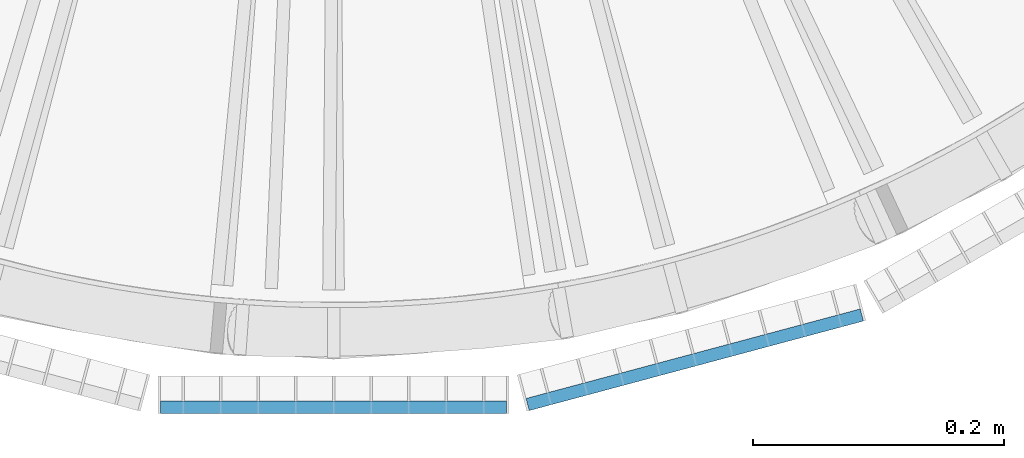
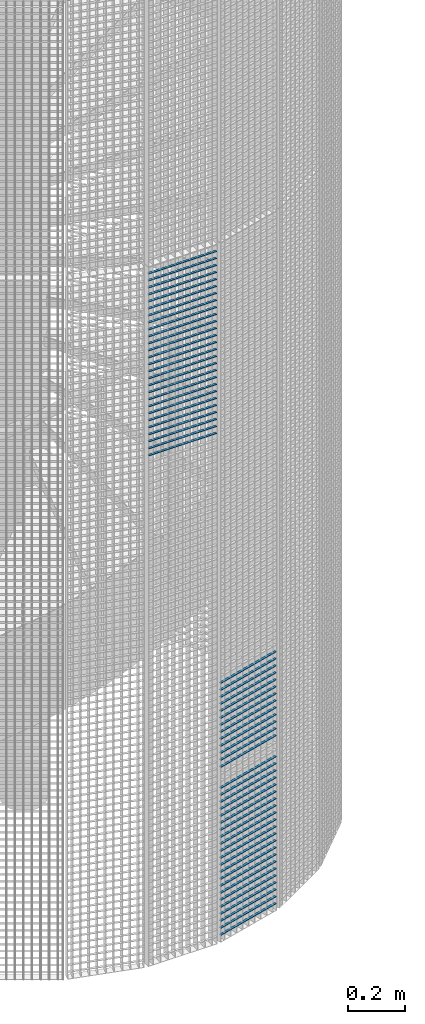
# One storey, part 167 of 1148: 62 beams, 2 elements without a shape of their own.
"""IFC2X3 building model written with IfcOpenShell, lengths in millimetres."""

from ifc_helpers import new_model, si_unit, frame, origin_with_axes, origin_2d_with_axis, place, context, subcontext, project, spatial, rectangle, extrude, material, type_object, element, aggregate, save


model = new_model("IFC2X3")

# Units and contexts
model_context = context("Model", 3, precision=1e-05, world=origin_with_axes())
body_context = subcontext(model_context, "Body", "Model", "MODEL_VIEW")
ifc_project = project(units=[si_unit("LENGTHUNIT", "METRE", prefix="MILLI"), si_unit("AREAUNIT", "SQUARE_METRE"), si_unit("VOLUMEUNIT", "CUBIC_METRE"), si_unit("MASSUNIT", "GRAM", prefix="KILO"), si_unit("TIMEUNIT", "SECOND"), si_unit("PLANEANGLEUNIT", "RADIAN"), si_unit("SOLIDANGLEUNIT", "STERADIAN"), si_unit("THERMODYNAMICTEMPERATUREUNIT", "DEGREE_CELSIUS"), si_unit("LUMINOUSINTENSITYUNIT", "LUMEN")], contexts=[model_context])

# Site, building, storey
site_placement = place(None, origin_with_axes())
site = spatial("IfcSite", under=ifc_project, at=site_placement, Name="Undefined", CompositionType="ELEMENT")
building_placement = place(site_placement, origin_with_axes())
building = spatial("IfcBuilding", under=site, at=building_placement, Name="Undefined", CompositionType="ELEMENT")
storey_placement = place(building_placement, origin_with_axes())
storey = spatial("IfcBuildingStorey", under=building, at=storey_placement, Name="Undefined", CompositionType="ELEMENT", Elevation=0.0)

# Assembly, beams
assembly_1_placement = place(storey_placement, origin_with_axes())
assembly_1 = element("IfcElementAssembly", 1, at=assembly_1_placement, inside=storey, Name="BORDURE", AssemblyPlace="NOTDEFINED", PredefinedType="NOTDEFINED")
ifc_material = material(Name="STEEL/S235JR")
beam_type = type_object("IfcBeamType", Name="PL2*10", PredefinedType="NOTDEFINED")
beam_1_placement = place(assembly_1_placement, frame((154.895926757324, -1111.25508286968, 749.999999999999), z_axis=(0.258819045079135, -0.965925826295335, 0.0), x_axis=(0.965925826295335, 0.258819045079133, 0.0)))
beam_1 = element("IfcBeam", 2, at=beam_1_placement, type_object=beam_type, material=ifc_material, Name="ENTRETOISE", context=body_context, shape_type="SweptSolid", body=[
    extrude(rectangle(XDim=2.0, YDim=10.0, at=origin_2d_with_axis()), frame((275.999999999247, 9.09494701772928e-13, 1.53210777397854e-14), z_axis=(-1.0, 0.0, 0.0), x_axis=(0.0, -1.0, 0.0)), (0.0, 0.0, 1.0), 276.0),
])
beam_2_placement = place(assembly_1_placement, frame((154.895926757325, -1111.25508286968, 659.999999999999), z_axis=(0.258819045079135, -0.965925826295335, 0.0), x_axis=(0.965925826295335, 0.258819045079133, 0.0)))
beam_2 = element("IfcBeam", 3, at=beam_2_placement, type_object=beam_type, material=ifc_material, Name="ENTRETOISE", context=body_context, shape_type="SweptSolid", body=[
    extrude(rectangle(XDim=2.0, YDim=10.0, at=origin_2d_with_axis()), frame((275.999999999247, 9.09494701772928e-13, 1.53210777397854e-14), z_axis=(-1.0, 0.0, 0.0), x_axis=(0.0, -1.0, 0.0)), (0.0, 0.0, 1.0), 276.0),
])
beam_3_placement = place(assembly_1_placement, frame((154.895926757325, -1111.25508286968, 629.999999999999), z_axis=(0.258819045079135, -0.965925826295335, 0.0), x_axis=(0.965925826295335, 0.258819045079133, 0.0)))
beam_3 = element("IfcBeam", 4, at=beam_3_placement, type_object=beam_type, material=ifc_material, Name="ENTRETOISE", context=body_context, shape_type="SweptSolid", body=[
    extrude(rectangle(XDim=2.0, YDim=10.0, at=origin_2d_with_axis()), frame((275.999999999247, 9.09494701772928e-13, 1.53210777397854e-14), z_axis=(-1.0, 0.0, 0.0), x_axis=(0.0, -1.0, 0.0)), (0.0, 0.0, 1.0), 276.0),
])
beam_4_placement = place(assembly_1_placement, frame((154.895926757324, -1111.25508286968, 779.999999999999), z_axis=(0.258819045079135, -0.965925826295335, 0.0), x_axis=(0.965925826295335, 0.258819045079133, 0.0)))
beam_4 = element("IfcBeam", 5, at=beam_4_placement, type_object=beam_type, material=ifc_material, Name="ENTRETOISE", context=body_context, shape_type="SweptSolid", body=[
    extrude(rectangle(XDim=2.0, YDim=10.0, at=origin_2d_with_axis()), frame((275.999999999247, 9.09494701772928e-13, 1.53210777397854e-14), z_axis=(-1.0, 0.0, 0.0), x_axis=(0.0, -1.0, 0.0)), (0.0, 0.0, 1.0), 276.0),
])
beam_5_placement = place(assembly_1_placement, frame((154.895926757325, -1111.25508286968, 599.999999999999), z_axis=(0.258819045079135, -0.965925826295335, 0.0), x_axis=(0.965925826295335, 0.258819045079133, 0.0)))
beam_5 = element("IfcBeam", 6, at=beam_5_placement, type_object=beam_type, material=ifc_material, Name="ENTRETOISE", context=body_context, shape_type="SweptSolid", body=[
    extrude(rectangle(XDim=2.0, YDim=10.0, at=origin_2d_with_axis()), frame((275.999999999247, 9.09494701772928e-13, 1.53210777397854e-14), z_axis=(-1.0, 0.0, 0.0), x_axis=(0.0, -1.0, 0.0)), (0.0, 0.0, 1.0), 276.0),
])
beam_6_placement = place(assembly_1_placement, frame((154.895926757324, -1111.25508286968, 809.999999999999), z_axis=(0.258819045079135, -0.965925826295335, 0.0), x_axis=(0.965925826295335, 0.258819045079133, 0.0)))
beam_6 = element("IfcBeam", 7, at=beam_6_placement, type_object=beam_type, material=ifc_material, Name="ENTRETOISE", context=body_context, shape_type="SweptSolid", body=[
    extrude(rectangle(XDim=2.0, YDim=10.0, at=origin_2d_with_axis()), frame((275.999999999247, 9.09494701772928e-13, 1.53210777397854e-14), z_axis=(-1.0, 0.0, 0.0), x_axis=(0.0, -1.0, 0.0)), (0.0, 0.0, 1.0), 276.0),
])
beam_7_placement = place(assembly_1_placement, frame((154.895926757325, -1111.25508286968, 569.999999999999), z_axis=(0.258819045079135, -0.965925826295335, 0.0), x_axis=(0.965925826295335, 0.258819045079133, 0.0)))
beam_7 = element("IfcBeam", 8, at=beam_7_placement, type_object=beam_type, material=ifc_material, Name="ENTRETOISE", context=body_context, shape_type="SweptSolid", body=[
    extrude(rectangle(XDim=2.0, YDim=10.0, at=origin_2d_with_axis()), frame((275.999999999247, 9.09494701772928e-13, 1.53210777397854e-14), z_axis=(-1.0, 0.0, 0.0), x_axis=(0.0, -1.0, 0.0)), (0.0, 0.0, 1.0), 276.0),
])
beam_8_placement = place(assembly_1_placement, frame((154.895926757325, -1111.25508286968, 539.999999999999), z_axis=(0.258819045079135, -0.965925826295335, 0.0), x_axis=(0.965925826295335, 0.258819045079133, 0.0)))
beam_8 = element("IfcBeam", 9, at=beam_8_placement, type_object=beam_type, material=ifc_material, Name="ENTRETOISE", context=body_context, shape_type="SweptSolid", body=[
    extrude(rectangle(XDim=2.0, YDim=10.0, at=origin_2d_with_axis()), frame((275.999999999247, 9.09494701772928e-13, 1.53210777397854e-14), z_axis=(-1.0, 0.0, 0.0), x_axis=(0.0, -1.0, 0.0)), (0.0, 0.0, 1.0), 276.0),
])
beam_9_placement = place(assembly_1_placement, frame((154.895926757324, -1111.25508286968, 839.999999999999), z_axis=(0.258819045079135, -0.965925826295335, 0.0), x_axis=(0.965925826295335, 0.258819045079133, 0.0)))
beam_9 = element("IfcBeam", 10, at=beam_9_placement, type_object=beam_type, material=ifc_material, Name="ENTRETOISE", context=body_context, shape_type="SweptSolid", body=[
    extrude(rectangle(XDim=2.0, YDim=10.0, at=origin_2d_with_axis()), frame((275.999999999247, 9.09494701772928e-13, 1.53210777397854e-14), z_axis=(-1.0, 0.0, 0.0), x_axis=(0.0, -1.0, 0.0)), (0.0, 0.0, 1.0), 276.0),
])
beam_10_placement = place(assembly_1_placement, frame((154.895926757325, -1111.25508286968, 509.999999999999), z_axis=(0.258819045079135, -0.965925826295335, 0.0), x_axis=(0.965925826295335, 0.258819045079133, 0.0)))
beam_10 = element("IfcBeam", 11, at=beam_10_placement, type_object=beam_type, material=ifc_material, Name="ENTRETOISE", context=body_context, shape_type="SweptSolid", body=[
    extrude(rectangle(XDim=2.0, YDim=10.0, at=origin_2d_with_axis()), frame((275.999999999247, 9.09494701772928e-13, 1.53210777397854e-14), z_axis=(-1.0, 0.0, 0.0), x_axis=(0.0, -1.0, 0.0)), (0.0, 0.0, 1.0), 276.0),
])
beam_11_placement = place(assembly_1_placement, frame((154.895926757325, -1111.25508286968, 479.999999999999), z_axis=(0.258819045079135, -0.965925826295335, 0.0), x_axis=(0.965925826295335, 0.258819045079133, 0.0)))
beam_11 = element("IfcBeam", 12, at=beam_11_placement, type_object=beam_type, material=ifc_material, Name="ENTRETOISE", context=body_context, shape_type="SweptSolid", body=[
    extrude(rectangle(XDim=2.0, YDim=10.0, at=origin_2d_with_axis()), frame((275.999999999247, 9.09494701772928e-13, 1.53210777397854e-14), z_axis=(-1.0, 0.0, 0.0), x_axis=(0.0, -1.0, 0.0)), (0.0, 0.0, 1.0), 276.0),
])
beam_12_placement = place(assembly_1_placement, frame((154.895926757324, -1111.25508286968, 869.999999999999), z_axis=(0.258819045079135, -0.965925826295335, 0.0), x_axis=(0.965925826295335, 0.258819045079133, 0.0)))
beam_12 = element("IfcBeam", 13, at=beam_12_placement, type_object=beam_type, material=ifc_material, Name="ENTRETOISE", context=body_context, shape_type="SweptSolid", body=[
    extrude(rectangle(XDim=2.0, YDim=10.0, at=origin_2d_with_axis()), frame((275.999999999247, 9.09494701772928e-13, 1.53210777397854e-14), z_axis=(-1.0, 0.0, 0.0), x_axis=(0.0, -1.0, 0.0)), (0.0, 0.0, 1.0), 276.0),
])
beam_13_placement = place(assembly_1_placement, frame((154.895926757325, -1111.25508286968, 449.999999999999), z_axis=(0.258819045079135, -0.965925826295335, 0.0), x_axis=(0.965925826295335, 0.258819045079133, 0.0)))
beam_13 = element("IfcBeam", 14, at=beam_13_placement, type_object=beam_type, material=ifc_material, Name="ENTRETOISE", context=body_context, shape_type="SweptSolid", body=[
    extrude(rectangle(XDim=2.0, YDim=10.0, at=origin_2d_with_axis()), frame((275.999999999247, 9.09494701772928e-13, 1.53210777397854e-14), z_axis=(-1.0, 0.0, 0.0), x_axis=(0.0, -1.0, 0.0)), (0.0, 0.0, 1.0), 276.0),
])
beam_14_placement = place(assembly_1_placement, frame((154.895926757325, -1111.25508286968, 419.999999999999), z_axis=(0.258819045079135, -0.965925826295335, 0.0), x_axis=(0.965925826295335, 0.258819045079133, 0.0)))
beam_14 = element("IfcBeam", 15, at=beam_14_placement, type_object=beam_type, material=ifc_material, Name="ENTRETOISE", context=body_context, shape_type="SweptSolid", body=[
    extrude(rectangle(XDim=2.0, YDim=10.0, at=origin_2d_with_axis()), frame((275.999999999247, 9.09494701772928e-13, 1.53210777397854e-14), z_axis=(-1.0, 0.0, 0.0), x_axis=(0.0, -1.0, 0.0)), (0.0, 0.0, 1.0), 276.0),
])
beam_15_placement = place(assembly_1_placement, frame((154.895926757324, -1111.25508286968, 899.999999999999), z_axis=(0.258819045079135, -0.965925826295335, 0.0), x_axis=(0.965925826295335, 0.258819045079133, 0.0)))
beam_15 = element("IfcBeam", 16, at=beam_15_placement, type_object=beam_type, material=ifc_material, Name="ENTRETOISE", context=body_context, shape_type="SweptSolid", body=[
    extrude(rectangle(XDim=2.0, YDim=10.0, at=origin_2d_with_axis()), frame((275.999999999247, 9.09494701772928e-13, 1.53210777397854e-14), z_axis=(-1.0, 0.0, 0.0), x_axis=(0.0, -1.0, 0.0)), (0.0, 0.0, 1.0), 276.0),
])
beam_16_placement = place(assembly_1_placement, frame((154.895926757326, -1111.25508286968, 389.999999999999), z_axis=(0.258819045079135, -0.965925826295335, 0.0), x_axis=(0.965925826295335, 0.258819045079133, 0.0)))
beam_16 = element("IfcBeam", 17, at=beam_16_placement, type_object=beam_type, material=ifc_material, Name="ENTRETOISE", context=body_context, shape_type="SweptSolid", body=[
    extrude(rectangle(XDim=2.0, YDim=10.0, at=origin_2d_with_axis()), frame((275.999999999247, 9.09494701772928e-13, 1.53210777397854e-14), z_axis=(-1.0, 0.0, 0.0), x_axis=(0.0, -1.0, 0.0)), (0.0, 0.0, 1.0), 276.0),
])
beam_17_placement = place(assembly_1_placement, frame((154.895926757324, -1111.25508286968, 929.999999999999), z_axis=(0.258819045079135, -0.965925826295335, 0.0), x_axis=(0.965925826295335, 0.258819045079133, 0.0)))
beam_17 = element("IfcBeam", 18, at=beam_17_placement, type_object=beam_type, material=ifc_material, Name="ENTRETOISE", context=body_context, shape_type="SweptSolid", body=[
    extrude(rectangle(XDim=2.0, YDim=10.0, at=origin_2d_with_axis()), frame((275.999999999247, 9.09494701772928e-13, 1.53210777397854e-14), z_axis=(-1.0, 0.0, 0.0), x_axis=(0.0, -1.0, 0.0)), (0.0, 0.0, 1.0), 276.0),
])
beam_18_placement = place(assembly_1_placement, frame((154.895926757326, -1111.25508286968, 359.999999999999), z_axis=(0.258819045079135, -0.965925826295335, 0.0), x_axis=(0.965925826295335, 0.258819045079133, 0.0)))
beam_18 = element("IfcBeam", 19, at=beam_18_placement, type_object=beam_type, material=ifc_material, Name="ENTRETOISE", context=body_context, shape_type="SweptSolid", body=[
    extrude(rectangle(XDim=2.0, YDim=10.0, at=origin_2d_with_axis()), frame((275.999999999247, 9.09494701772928e-13, 1.53210777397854e-14), z_axis=(-1.0, 0.0, 0.0), x_axis=(0.0, -1.0, 0.0)), (0.0, 0.0, 1.0), 276.0),
])
beam_19_placement = place(assembly_1_placement, frame((154.895926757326, -1111.25508286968, 329.999999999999), z_axis=(0.258819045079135, -0.965925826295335, 0.0), x_axis=(0.965925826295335, 0.258819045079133, 0.0)))
beam_19 = element("IfcBeam", 20, at=beam_19_placement, type_object=beam_type, material=ifc_material, Name="ENTRETOISE", context=body_context, shape_type="SweptSolid", body=[
    extrude(rectangle(XDim=2.0, YDim=10.0, at=origin_2d_with_axis()), frame((275.999999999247, 9.09494701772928e-13, 1.53210777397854e-14), z_axis=(-1.0, 0.0, 0.0), x_axis=(0.0, -1.0, 0.0)), (0.0, 0.0, 1.0), 276.0),
])
beam_20_placement = place(assembly_1_placement, frame((154.895926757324, -1111.25508286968, 959.999999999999), z_axis=(0.258819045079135, -0.965925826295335, 0.0), x_axis=(0.965925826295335, 0.258819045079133, 0.0)))
beam_20 = element("IfcBeam", 21, at=beam_20_placement, type_object=beam_type, material=ifc_material, Name="ENTRETOISE", context=body_context, shape_type="SweptSolid", body=[
    extrude(rectangle(XDim=2.0, YDim=10.0, at=origin_2d_with_axis()), frame((275.999999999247, 9.09494701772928e-13, 1.53210777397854e-14), z_axis=(-1.0, 0.0, 0.0), x_axis=(0.0, -1.0, 0.0)), (0.0, 0.0, 1.0), 276.0),
])
beam_21_placement = place(assembly_1_placement, frame((154.895926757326, -1111.25508286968, 299.999999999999), z_axis=(0.258819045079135, -0.965925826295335, 0.0), x_axis=(0.965925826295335, 0.258819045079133, 0.0)))
beam_21 = element("IfcBeam", 22, at=beam_21_placement, type_object=beam_type, material=ifc_material, Name="ENTRETOISE", context=body_context, shape_type="SweptSolid", body=[
    extrude(rectangle(XDim=2.0, YDim=10.0, at=origin_2d_with_axis()), frame((275.999999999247, 9.09494701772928e-13, 1.53210777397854e-14), z_axis=(-1.0, 0.0, 0.0), x_axis=(0.0, -1.0, 0.0)), (0.0, 0.0, 1.0), 276.0),
])
beam_22_placement = place(assembly_1_placement, frame((154.895926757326, -1111.25508286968, 269.999999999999), z_axis=(0.258819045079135, -0.965925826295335, 0.0), x_axis=(0.965925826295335, 0.258819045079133, 0.0)))
beam_22 = element("IfcBeam", 23, at=beam_22_placement, type_object=beam_type, material=ifc_material, Name="ENTRETOISE", context=body_context, shape_type="SweptSolid", body=[
    extrude(rectangle(XDim=2.0, YDim=10.0, at=origin_2d_with_axis()), frame((275.999999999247, 9.09494701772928e-13, 1.53210777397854e-14), z_axis=(-1.0, 0.0, 0.0), x_axis=(0.0, -1.0, 0.0)), (0.0, 0.0, 1.0), 276.0),
])
beam_23_placement = place(assembly_1_placement, frame((154.895926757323, -1111.25508286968, 989.999999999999), z_axis=(0.258819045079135, -0.965925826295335, 0.0), x_axis=(0.965925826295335, 0.258819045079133, 0.0)))
beam_23 = element("IfcBeam", 24, at=beam_23_placement, type_object=beam_type, material=ifc_material, Name="ENTRETOISE", context=body_context, shape_type="SweptSolid", body=[
    extrude(rectangle(XDim=2.0, YDim=10.0, at=origin_2d_with_axis()), frame((275.999999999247, 9.09494701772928e-13, 1.53210777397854e-14), z_axis=(-1.0, 0.0, 0.0), x_axis=(0.0, -1.0, 0.0)), (0.0, 0.0, 1.0), 276.0),
])
beam_24_placement = place(assembly_1_placement, frame((154.895926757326, -1111.25508286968, 239.999999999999), z_axis=(0.258819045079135, -0.965925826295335, 0.0), x_axis=(0.965925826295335, 0.258819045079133, 0.0)))
beam_24 = element("IfcBeam", 25, at=beam_24_placement, type_object=beam_type, material=ifc_material, Name="ENTRETOISE", context=body_context, shape_type="SweptSolid", body=[
    extrude(rectangle(XDim=2.0, YDim=10.0, at=origin_2d_with_axis()), frame((275.999999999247, 9.09494701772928e-13, 1.53210777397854e-14), z_axis=(-1.0, 0.0, 0.0), x_axis=(0.0, -1.0, 0.0)), (0.0, 0.0, 1.0), 276.0),
])
beam_25_placement = place(assembly_1_placement, frame((154.895926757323, -1111.25508286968, 1020.0), z_axis=(0.258819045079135, -0.965925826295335, 0.0), x_axis=(0.965925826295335, 0.258819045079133, 0.0)))
beam_25 = element("IfcBeam", 26, at=beam_25_placement, type_object=beam_type, material=ifc_material, Name="ENTRETOISE", context=body_context, shape_type="SweptSolid", body=[
    extrude(rectangle(XDim=2.0, YDim=10.0, at=origin_2d_with_axis()), frame((275.999999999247, 9.09494701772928e-13, 1.53210777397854e-14), z_axis=(-1.0, 0.0, 0.0), x_axis=(0.0, -1.0, 0.0)), (0.0, 0.0, 1.0), 276.0),
])
beam_26_placement = place(assembly_1_placement, frame((154.895926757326, -1111.25508286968, 209.999999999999), z_axis=(0.258819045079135, -0.965925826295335, 0.0), x_axis=(0.965925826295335, 0.258819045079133, 0.0)))
beam_26 = element("IfcBeam", 27, at=beam_26_placement, type_object=beam_type, material=ifc_material, Name="ENTRETOISE", context=body_context, shape_type="SweptSolid", body=[
    extrude(rectangle(XDim=2.0, YDim=10.0, at=origin_2d_with_axis()), frame((275.999999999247, 9.09494701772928e-13, 1.53210777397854e-14), z_axis=(-1.0, 0.0, 0.0), x_axis=(0.0, -1.0, 0.0)), (0.0, 0.0, 1.0), 276.0),
])
beam_27_placement = place(assembly_1_placement, frame((154.895926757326, -1111.25508286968, 179.999999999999), z_axis=(0.258819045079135, -0.965925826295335, 0.0), x_axis=(0.965925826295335, 0.258819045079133, 0.0)))
beam_27 = element("IfcBeam", 28, at=beam_27_placement, type_object=beam_type, material=ifc_material, Name="ENTRETOISE", context=body_context, shape_type="SweptSolid", body=[
    extrude(rectangle(XDim=2.0, YDim=10.0, at=origin_2d_with_axis()), frame((275.999999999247, 9.09494701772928e-13, 1.53210777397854e-14), z_axis=(-1.0, 0.0, 0.0), x_axis=(0.0, -1.0, 0.0)), (0.0, 0.0, 1.0), 276.0),
])
beam_28_placement = place(assembly_1_placement, frame((154.895926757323, -1111.25508286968, 1050.0), z_axis=(0.258819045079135, -0.965925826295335, 0.0), x_axis=(0.965925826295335, 0.258819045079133, 0.0)))
beam_28 = element("IfcBeam", 29, at=beam_28_placement, type_object=beam_type, material=ifc_material, Name="ENTRETOISE", context=body_context, shape_type="SweptSolid", body=[
    extrude(rectangle(XDim=2.0, YDim=10.0, at=origin_2d_with_axis()), frame((275.999999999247, 9.09494701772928e-13, 1.53210777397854e-14), z_axis=(-1.0, 0.0, 0.0), x_axis=(0.0, -1.0, 0.0)), (0.0, 0.0, 1.0), 276.0),
])
beam_29_placement = place(assembly_1_placement, frame((154.895926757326, -1111.25508286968, 149.999999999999), z_axis=(0.258819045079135, -0.965925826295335, 0.0), x_axis=(0.965925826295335, 0.258819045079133, 0.0)))
beam_29 = element("IfcBeam", 30, at=beam_29_placement, type_object=beam_type, material=ifc_material, Name="ENTRETOISE", context=body_context, shape_type="SweptSolid", body=[
    extrude(rectangle(XDim=2.0, YDim=10.0, at=origin_2d_with_axis()), frame((275.999999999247, 9.09494701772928e-13, 1.53210777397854e-14), z_axis=(-1.0, 0.0, 0.0), x_axis=(0.0, -1.0, 0.0)), (0.0, 0.0, 1.0), 276.0),
])
beam_30_placement = place(assembly_1_placement, frame((154.895926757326, -1111.25508286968, 119.999999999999), z_axis=(0.258819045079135, -0.965925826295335, 0.0), x_axis=(0.965925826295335, 0.258819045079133, 0.0)))
beam_30 = element("IfcBeam", 31, at=beam_30_placement, type_object=beam_type, material=ifc_material, Name="ENTRETOISE", context=body_context, shape_type="SweptSolid", body=[
    extrude(rectangle(XDim=2.0, YDim=10.0, at=origin_2d_with_axis()), frame((275.999999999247, 9.09494701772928e-13, 1.53210777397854e-14), z_axis=(-1.0, 0.0, 0.0), x_axis=(0.0, -1.0, 0.0)), (0.0, 0.0, 1.0), 276.0),
])
beam_31_placement = place(assembly_1_placement, frame((154.895926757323, -1111.25508286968, 1080.0), z_axis=(0.258819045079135, -0.965925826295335, 0.0), x_axis=(0.965925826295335, 0.258819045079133, 0.0)))
beam_31 = element("IfcBeam", 32, at=beam_31_placement, type_object=beam_type, material=ifc_material, Name="ENTRETOISE", context=body_context, shape_type="SweptSolid", body=[
    extrude(rectangle(XDim=2.0, YDim=10.0, at=origin_2d_with_axis()), frame((275.999999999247, 9.09494701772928e-13, 1.53210777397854e-14), z_axis=(-1.0, 0.0, 0.0), x_axis=(0.0, -1.0, 0.0)), (0.0, 0.0, 1.0), 276.0),
])
beam_32_placement = place(assembly_1_placement, frame((154.895926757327, -1111.25508286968, 89.9999999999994), z_axis=(0.258819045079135, -0.965925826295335, 0.0), x_axis=(0.965925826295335, 0.258819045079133, 0.0)))
beam_32 = element("IfcBeam", 33, at=beam_32_placement, type_object=beam_type, material=ifc_material, Name="ENTRETOISE", context=body_context, shape_type="SweptSolid", body=[
    extrude(rectangle(XDim=2.0, YDim=10.0, at=origin_2d_with_axis()), frame((275.999999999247, 9.09494701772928e-13, 1.53210777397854e-14), z_axis=(-1.0, 0.0, 0.0), x_axis=(0.0, -1.0, 0.0)), (0.0, 0.0, 1.0), 276.0),
])
beam_33_placement = place(assembly_1_placement, frame((154.895926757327, -1111.25508286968, 59.9999999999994), z_axis=(0.258819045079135, -0.965925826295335, 0.0), x_axis=(0.965925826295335, 0.258819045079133, 0.0)))
beam_33 = element("IfcBeam", 34, at=beam_33_placement, type_object=beam_type, material=ifc_material, Name="ENTRETOISE", context=body_context, shape_type="SweptSolid", body=[
    extrude(rectangle(XDim=2.0, YDim=10.0, at=origin_2d_with_axis()), frame((275.999999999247, 9.09494701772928e-13, 1.53210777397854e-14), z_axis=(-1.0, 0.0, 0.0), x_axis=(0.0, -1.0, 0.0)), (0.0, 0.0, 1.0), 276.0),
])
beam_34_placement = place(assembly_1_placement, frame((154.895926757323, -1111.25508286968, 1110.0), z_axis=(0.258819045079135, -0.965925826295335, 0.0), x_axis=(0.965925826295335, 0.258819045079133, 0.0)))
beam_34 = element("IfcBeam", 35, at=beam_34_placement, type_object=beam_type, material=ifc_material, Name="ENTRETOISE", context=body_context, shape_type="SweptSolid", body=[
    extrude(rectangle(XDim=2.0, YDim=10.0, at=origin_2d_with_axis()), frame((275.999999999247, 9.09494701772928e-13, 1.53210777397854e-14), z_axis=(-1.0, 0.0, 0.0), x_axis=(0.0, -1.0, 0.0)), (0.0, 0.0, 1.0), 276.0),
])
beam_35_placement = place(assembly_1_placement, frame((154.895926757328, -1111.25508286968, 29.9999999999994), z_axis=(0.258819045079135, -0.965925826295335, 0.0), x_axis=(0.965925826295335, 0.258819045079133, 0.0)))
beam_35 = element("IfcBeam", 36, at=beam_35_placement, type_object=beam_type, material=ifc_material, Name="ENTRETOISE", context=body_context, shape_type="SweptSolid", body=[
    extrude(rectangle(XDim=2.0, YDim=10.0, at=origin_2d_with_axis()), frame((275.999999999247, 9.09494701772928e-13, 1.53210777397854e-14), z_axis=(-1.0, 0.0, 0.0), x_axis=(0.0, -1.0, 0.0)), (0.0, 0.0, 1.0), 276.0),
])
aggregate(assembly_1, [beam_1, beam_2, beam_3, beam_4, beam_5, beam_6, beam_7, beam_8, beam_9, beam_10, beam_11, beam_12, beam_13, beam_14, beam_15, beam_16, beam_17, beam_18, beam_19, beam_20, beam_21, beam_22, beam_23, beam_24, beam_25, beam_26, beam_27, beam_28, beam_29, beam_30, beam_31, beam_32, beam_33, beam_34, beam_35])

assembly_2_placement = place(storey_placement, origin_with_axes())
assembly_2 = element("IfcElementAssembly", 37, at=assembly_2_placement, inside=storey, Name="BORDURE", AssemblyPlace="NOTDEFINED", PredefinedType="NOTDEFINED")
beam_36_placement = place(assembly_2_placement, frame((-137.996003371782, -1113.47999999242, 2970.0), z_axis=(0.0, -1.0, 0.0), x_axis=(1.0, 0.0, 0.0)))
beam_36 = element("IfcBeam", 38, at=beam_36_placement, type_object=beam_type, material=ifc_material, Name="ENTRETOISE", context=body_context, shape_type="SweptSolid", body=[
    extrude(rectangle(XDim=2.0, YDim=10.0, at=origin_2d_with_axis()), frame((275.999999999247, 9.09494701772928e-13, 1.53210777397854e-14), z_axis=(-1.0, 0.0, 0.0), x_axis=(0.0, -1.0, 0.0)), (0.0, 0.0, 1.0), 276.0),
])
beam_37_placement = place(assembly_2_placement, frame((-137.996003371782, -1113.47999999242, 2940.0), z_axis=(0.0, -1.0, 0.0), x_axis=(1.0, 0.0, 0.0)))
beam_37 = element("IfcBeam", 39, at=beam_37_placement, type_object=beam_type, material=ifc_material, Name="ENTRETOISE", context=body_context, shape_type="SweptSolid", body=[
    extrude(rectangle(XDim=2.0, YDim=10.0, at=origin_2d_with_axis()), frame((275.999999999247, 9.09494701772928e-13, 1.53210777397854e-14), z_axis=(-1.0, 0.0, 0.0), x_axis=(0.0, -1.0, 0.0)), (0.0, 0.0, 1.0), 276.0),
])
beam_38_placement = place(assembly_2_placement, frame((-137.996003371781, -1113.47999999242, 2910.0), z_axis=(0.0, -1.0, 0.0), x_axis=(1.0, 0.0, 0.0)))
beam_38 = element("IfcBeam", 40, at=beam_38_placement, type_object=beam_type, material=ifc_material, Name="ENTRETOISE", context=body_context, shape_type="SweptSolid", body=[
    extrude(rectangle(XDim=2.0, YDim=10.0, at=origin_2d_with_axis()), frame((275.999999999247, 9.09494701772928e-13, 1.53210777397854e-14), z_axis=(-1.0, 0.0, 0.0), x_axis=(0.0, -1.0, 0.0)), (0.0, 0.0, 1.0), 276.0),
])
beam_39_placement = place(assembly_2_placement, frame((-137.996003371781, -1113.47999999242, 2880.0), z_axis=(0.0, -1.0, 0.0), x_axis=(1.0, 0.0, 0.0)))
beam_39 = element("IfcBeam", 41, at=beam_39_placement, type_object=beam_type, material=ifc_material, Name="ENTRETOISE", context=body_context, shape_type="SweptSolid", body=[
    extrude(rectangle(XDim=2.0, YDim=10.0, at=origin_2d_with_axis()), frame((275.999999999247, 9.09494701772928e-13, 1.53210777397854e-14), z_axis=(-1.0, 0.0, 0.0), x_axis=(0.0, -1.0, 0.0)), (0.0, 0.0, 1.0), 276.0),
])
beam_40_placement = place(assembly_2_placement, frame((-137.996003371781, -1113.47999999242, 2850.0), z_axis=(0.0, -1.0, 0.0), x_axis=(1.0, 0.0, 0.0)))
beam_40 = element("IfcBeam", 42, at=beam_40_placement, type_object=beam_type, material=ifc_material, Name="ENTRETOISE", context=body_context, shape_type="SweptSolid", body=[
    extrude(rectangle(XDim=2.0, YDim=10.0, at=origin_2d_with_axis()), frame((275.999999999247, 9.09494701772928e-13, 1.53210777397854e-14), z_axis=(-1.0, 0.0, 0.0), x_axis=(0.0, -1.0, 0.0)), (0.0, 0.0, 1.0), 276.0),
])
beam_41_placement = place(assembly_2_placement, frame((-137.996003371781, -1113.47999999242, 2820.0), z_axis=(0.0, -1.0, 0.0), x_axis=(1.0, 0.0, 0.0)))
beam_41 = element("IfcBeam", 43, at=beam_41_placement, type_object=beam_type, material=ifc_material, Name="ENTRETOISE", context=body_context, shape_type="SweptSolid", body=[
    extrude(rectangle(XDim=2.0, YDim=10.0, at=origin_2d_with_axis()), frame((275.999999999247, 9.09494701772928e-13, 1.53210777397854e-14), z_axis=(-1.0, 0.0, 0.0), x_axis=(0.0, -1.0, 0.0)), (0.0, 0.0, 1.0), 276.0),
])
beam_42_placement = place(assembly_2_placement, frame((-137.996003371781, -1113.47999999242, 2790.0), z_axis=(0.0, -1.0, 0.0), x_axis=(1.0, 0.0, 0.0)))
beam_42 = element("IfcBeam", 44, at=beam_42_placement, type_object=beam_type, material=ifc_material, Name="ENTRETOISE", context=body_context, shape_type="SweptSolid", body=[
    extrude(rectangle(XDim=2.0, YDim=10.0, at=origin_2d_with_axis()), frame((275.999999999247, 9.09494701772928e-13, 1.53210777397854e-14), z_axis=(-1.0, 0.0, 0.0), x_axis=(0.0, -1.0, 0.0)), (0.0, 0.0, 1.0), 276.0),
])
beam_43_placement = place(assembly_2_placement, frame((-137.996003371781, -1113.47999999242, 2760.0), z_axis=(0.0, -1.0, 0.0), x_axis=(1.0, 0.0, 0.0)))
beam_43 = element("IfcBeam", 45, at=beam_43_placement, type_object=beam_type, material=ifc_material, Name="ENTRETOISE", context=body_context, shape_type="SweptSolid", body=[
    extrude(rectangle(XDim=2.0, YDim=10.0, at=origin_2d_with_axis()), frame((275.999999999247, 9.09494701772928e-13, 1.53210777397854e-14), z_axis=(-1.0, 0.0, 0.0), x_axis=(0.0, -1.0, 0.0)), (0.0, 0.0, 1.0), 276.0),
])
beam_44_placement = place(assembly_2_placement, frame((-137.996003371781, -1113.47999999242, 2730.0), z_axis=(0.0, -1.0, 0.0), x_axis=(1.0, 0.0, 0.0)))
beam_44 = element("IfcBeam", 46, at=beam_44_placement, type_object=beam_type, material=ifc_material, Name="ENTRETOISE", context=body_context, shape_type="SweptSolid", body=[
    extrude(rectangle(XDim=2.0, YDim=10.0, at=origin_2d_with_axis()), frame((275.999999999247, 9.09494701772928e-13, 1.53210777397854e-14), z_axis=(-1.0, 0.0, 0.0), x_axis=(0.0, -1.0, 0.0)), (0.0, 0.0, 1.0), 276.0),
])
beam_45_placement = place(assembly_2_placement, frame((-137.996003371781, -1113.47999999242, 2700.0), z_axis=(0.0, -1.0, 0.0), x_axis=(1.0, 0.0, 0.0)))
beam_45 = element("IfcBeam", 47, at=beam_45_placement, type_object=beam_type, material=ifc_material, Name="ENTRETOISE", context=body_context, shape_type="SweptSolid", body=[
    extrude(rectangle(XDim=2.0, YDim=10.0, at=origin_2d_with_axis()), frame((275.999999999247, 9.09494701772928e-13, 1.53210777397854e-14), z_axis=(-1.0, 0.0, 0.0), x_axis=(0.0, -1.0, 0.0)), (0.0, 0.0, 1.0), 276.0),
])
beam_46_placement = place(assembly_2_placement, frame((-137.996003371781, -1113.47999999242, 2670.0), z_axis=(0.0, -1.0, 0.0), x_axis=(1.0, 0.0, 0.0)))
beam_46 = element("IfcBeam", 48, at=beam_46_placement, type_object=beam_type, material=ifc_material, Name="ENTRETOISE", context=body_context, shape_type="SweptSolid", body=[
    extrude(rectangle(XDim=2.0, YDim=10.0, at=origin_2d_with_axis()), frame((275.999999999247, 9.09494701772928e-13, 1.53210777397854e-14), z_axis=(-1.0, 0.0, 0.0), x_axis=(0.0, -1.0, 0.0)), (0.0, 0.0, 1.0), 276.0),
])
beam_47_placement = place(assembly_2_placement, frame((-137.996003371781, -1113.47999999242, 2640.0), z_axis=(0.0, -1.0, 0.0), x_axis=(1.0, 0.0, 0.0)))
beam_47 = element("IfcBeam", 49, at=beam_47_placement, type_object=beam_type, material=ifc_material, Name="ENTRETOISE", context=body_context, shape_type="SweptSolid", body=[
    extrude(rectangle(XDim=2.0, YDim=10.0, at=origin_2d_with_axis()), frame((275.999999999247, 9.09494701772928e-13, 1.53210777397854e-14), z_axis=(-1.0, 0.0, 0.0), x_axis=(0.0, -1.0, 0.0)), (0.0, 0.0, 1.0), 276.0),
])
beam_48_placement = place(assembly_2_placement, frame((-137.99600337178, -1113.47999999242, 2610.0), z_axis=(0.0, -1.0, 0.0), x_axis=(1.0, 0.0, 0.0)))
beam_48 = element("IfcBeam", 50, at=beam_48_placement, type_object=beam_type, material=ifc_material, Name="ENTRETOISE", context=body_context, shape_type="SweptSolid", body=[
    extrude(rectangle(XDim=2.0, YDim=10.0, at=origin_2d_with_axis()), frame((275.999999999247, 9.09494701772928e-13, 1.53210777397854e-14), z_axis=(-1.0, 0.0, 0.0), x_axis=(0.0, -1.0, 0.0)), (0.0, 0.0, 1.0), 276.0),
])
beam_49_placement = place(assembly_2_placement, frame((-137.99600337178, -1113.47999999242, 2580.0), z_axis=(0.0, -1.0, 0.0), x_axis=(1.0, 0.0, 0.0)))
beam_49 = element("IfcBeam", 51, at=beam_49_placement, type_object=beam_type, material=ifc_material, Name="ENTRETOISE", context=body_context, shape_type="SweptSolid", body=[
    extrude(rectangle(XDim=2.0, YDim=10.0, at=origin_2d_with_axis()), frame((275.999999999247, 9.09494701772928e-13, 1.53210777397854e-14), z_axis=(-1.0, 0.0, 0.0), x_axis=(0.0, -1.0, 0.0)), (0.0, 0.0, 1.0), 276.0),
])
beam_50_placement = place(assembly_2_placement, frame((-137.99600337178, -1113.47999999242, 2550.0), z_axis=(0.0, -1.0, 0.0), x_axis=(1.0, 0.0, 0.0)))
beam_50 = element("IfcBeam", 52, at=beam_50_placement, type_object=beam_type, material=ifc_material, Name="ENTRETOISE", context=body_context, shape_type="SweptSolid", body=[
    extrude(rectangle(XDim=2.0, YDim=10.0, at=origin_2d_with_axis()), frame((275.999999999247, 9.09494701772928e-13, 1.53210777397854e-14), z_axis=(-1.0, 0.0, 0.0), x_axis=(0.0, -1.0, 0.0)), (0.0, 0.0, 1.0), 276.0),
])
beam_51_placement = place(assembly_2_placement, frame((-137.99600337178, -1113.47999999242, 2520.0), z_axis=(0.0, -1.0, 0.0), x_axis=(1.0, 0.0, 0.0)))
beam_51 = element("IfcBeam", 53, at=beam_51_placement, type_object=beam_type, material=ifc_material, Name="ENTRETOISE", context=body_context, shape_type="SweptSolid", body=[
    extrude(rectangle(XDim=2.0, YDim=10.0, at=origin_2d_with_axis()), frame((275.999999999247, 9.09494701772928e-13, 1.53210777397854e-14), z_axis=(-1.0, 0.0, 0.0), x_axis=(0.0, -1.0, 0.0)), (0.0, 0.0, 1.0), 276.0),
])
beam_52_placement = place(assembly_2_placement, frame((-137.99600337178, -1113.47999999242, 2490.0), z_axis=(0.0, -1.0, 0.0), x_axis=(1.0, 0.0, 0.0)))
beam_52 = element("IfcBeam", 54, at=beam_52_placement, type_object=beam_type, material=ifc_material, Name="ENTRETOISE", context=body_context, shape_type="SweptSolid", body=[
    extrude(rectangle(XDim=2.0, YDim=10.0, at=origin_2d_with_axis()), frame((275.999999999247, 9.09494701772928e-13, 1.53210777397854e-14), z_axis=(-1.0, 0.0, 0.0), x_axis=(0.0, -1.0, 0.0)), (0.0, 0.0, 1.0), 276.0),
])
beam_53_placement = place(assembly_2_placement, frame((-137.99600337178, -1113.47999999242, 2460.0), z_axis=(0.0, -1.0, 0.0), x_axis=(1.0, 0.0, 0.0)))
beam_53 = element("IfcBeam", 55, at=beam_53_placement, type_object=beam_type, material=ifc_material, Name="ENTRETOISE", context=body_context, shape_type="SweptSolid", body=[
    extrude(rectangle(XDim=2.0, YDim=10.0, at=origin_2d_with_axis()), frame((275.999999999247, 9.09494701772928e-13, 1.53210777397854e-14), z_axis=(-1.0, 0.0, 0.0), x_axis=(0.0, -1.0, 0.0)), (0.0, 0.0, 1.0), 276.0),
])
beam_54_placement = place(assembly_2_placement, frame((-137.99600337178, -1113.47999999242, 2430.0), z_axis=(0.0, -1.0, 0.0), x_axis=(1.0, 0.0, 0.0)))
beam_54 = element("IfcBeam", 56, at=beam_54_placement, type_object=beam_type, material=ifc_material, Name="ENTRETOISE", context=body_context, shape_type="SweptSolid", body=[
    extrude(rectangle(XDim=2.0, YDim=10.0, at=origin_2d_with_axis()), frame((275.999999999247, 9.09494701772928e-13, 1.53210777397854e-14), z_axis=(-1.0, 0.0, 0.0), x_axis=(0.0, -1.0, 0.0)), (0.0, 0.0, 1.0), 276.0),
])
beam_55_placement = place(assembly_2_placement, frame((-137.99600337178, -1113.47999999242, 2400.0), z_axis=(0.0, -1.0, 0.0), x_axis=(1.0, 0.0, 0.0)))
beam_55 = element("IfcBeam", 57, at=beam_55_placement, type_object=beam_type, material=ifc_material, Name="ENTRETOISE", context=body_context, shape_type="SweptSolid", body=[
    extrude(rectangle(XDim=2.0, YDim=10.0, at=origin_2d_with_axis()), frame((275.999999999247, 9.09494701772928e-13, 1.53210777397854e-14), z_axis=(-1.0, 0.0, 0.0), x_axis=(0.0, -1.0, 0.0)), (0.0, 0.0, 1.0), 276.0),
])
beam_56_placement = place(assembly_2_placement, frame((-137.99600337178, -1113.47999999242, 2370.0), z_axis=(0.0, -1.0, 0.0), x_axis=(1.0, 0.0, 0.0)))
beam_56 = element("IfcBeam", 58, at=beam_56_placement, type_object=beam_type, material=ifc_material, Name="ENTRETOISE", context=body_context, shape_type="SweptSolid", body=[
    extrude(rectangle(XDim=2.0, YDim=10.0, at=origin_2d_with_axis()), frame((275.999999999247, 9.09494701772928e-13, 1.53210777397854e-14), z_axis=(-1.0, 0.0, 0.0), x_axis=(0.0, -1.0, 0.0)), (0.0, 0.0, 1.0), 276.0),
])
beam_57_placement = place(assembly_2_placement, frame((-137.99600337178, -1113.47999999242, 2340.0), z_axis=(0.0, -1.0, 0.0), x_axis=(1.0, 0.0, 0.0)))
beam_57 = element("IfcBeam", 59, at=beam_57_placement, type_object=beam_type, material=ifc_material, Name="ENTRETOISE", context=body_context, shape_type="SweptSolid", body=[
    extrude(rectangle(XDim=2.0, YDim=10.0, at=origin_2d_with_axis()), frame((275.999999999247, 9.09494701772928e-13, 1.53210777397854e-14), z_axis=(-1.0, 0.0, 0.0), x_axis=(0.0, -1.0, 0.0)), (0.0, 0.0, 1.0), 276.0),
])
beam_58_placement = place(assembly_2_placement, frame((-137.996003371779, -1113.47999999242, 2310.0), z_axis=(0.0, -1.0, 0.0), x_axis=(1.0, 0.0, 0.0)))
beam_58 = element("IfcBeam", 60, at=beam_58_placement, type_object=beam_type, material=ifc_material, Name="ENTRETOISE", context=body_context, shape_type="SweptSolid", body=[
    extrude(rectangle(XDim=2.0, YDim=10.0, at=origin_2d_with_axis()), frame((275.999999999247, 9.09494701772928e-13, 1.53210777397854e-14), z_axis=(-1.0, 0.0, 0.0), x_axis=(0.0, -1.0, 0.0)), (0.0, 0.0, 1.0), 276.0),
])
beam_59_placement = place(assembly_2_placement, frame((-137.996003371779, -1113.47999999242, 2280.0), z_axis=(0.0, -1.0, 0.0), x_axis=(1.0, 0.0, 0.0)))
beam_59 = element("IfcBeam", 61, at=beam_59_placement, type_object=beam_type, material=ifc_material, Name="ENTRETOISE", context=body_context, shape_type="SweptSolid", body=[
    extrude(rectangle(XDim=2.0, YDim=10.0, at=origin_2d_with_axis()), frame((275.999999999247, 9.09494701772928e-13, 1.53210777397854e-14), z_axis=(-1.0, 0.0, 0.0), x_axis=(0.0, -1.0, 0.0)), (0.0, 0.0, 1.0), 276.0),
])
beam_60_placement = place(assembly_2_placement, frame((-137.996003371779, -1113.47999999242, 2250.0), z_axis=(0.0, -1.0, 0.0), x_axis=(1.0, 0.0, 0.0)))
beam_60 = element("IfcBeam", 62, at=beam_60_placement, type_object=beam_type, material=ifc_material, Name="ENTRETOISE", context=body_context, shape_type="SweptSolid", body=[
    extrude(rectangle(XDim=2.0, YDim=10.0, at=origin_2d_with_axis()), frame((275.999999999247, 9.09494701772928e-13, 1.53210777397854e-14), z_axis=(-1.0, 0.0, 0.0), x_axis=(0.0, -1.0, 0.0)), (0.0, 0.0, 1.0), 276.0),
])
beam_61_placement = place(assembly_2_placement, frame((-137.996003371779, -1113.47999999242, 2220.0), z_axis=(0.0, -1.0, 0.0), x_axis=(1.0, 0.0, 0.0)))
beam_61 = element("IfcBeam", 63, at=beam_61_placement, type_object=beam_type, material=ifc_material, Name="ENTRETOISE", context=body_context, shape_type="SweptSolid", body=[
    extrude(rectangle(XDim=2.0, YDim=10.0, at=origin_2d_with_axis()), frame((275.999999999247, 9.09494701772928e-13, 1.53210777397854e-14), z_axis=(-1.0, 0.0, 0.0), x_axis=(0.0, -1.0, 0.0)), (0.0, 0.0, 1.0), 276.0),
])
beam_62_placement = place(assembly_2_placement, frame((-137.996003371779, -1113.47999999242, 2190.0), z_axis=(0.0, -1.0, 0.0), x_axis=(1.0, 0.0, 0.0)))
beam_62 = element("IfcBeam", 64, at=beam_62_placement, type_object=beam_type, material=ifc_material, Name="ENTRETOISE", context=body_context, shape_type="SweptSolid", body=[
    extrude(rectangle(XDim=2.0, YDim=10.0, at=origin_2d_with_axis()), frame((275.999999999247, 9.09494701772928e-13, 1.53210777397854e-14), z_axis=(-1.0, 0.0, 0.0), x_axis=(0.0, -1.0, 0.0)), (0.0, 0.0, 1.0), 276.0),
])
aggregate(assembly_2, [beam_36, beam_37, beam_38, beam_39, beam_40, beam_41, beam_42, beam_43, beam_44, beam_45, beam_46, beam_47, beam_48, beam_49, beam_50, beam_51, beam_52, beam_53, beam_54, beam_55, beam_56, beam_57, beam_58, beam_59, beam_60, beam_61, beam_62])

save(model, "model.ifc")
